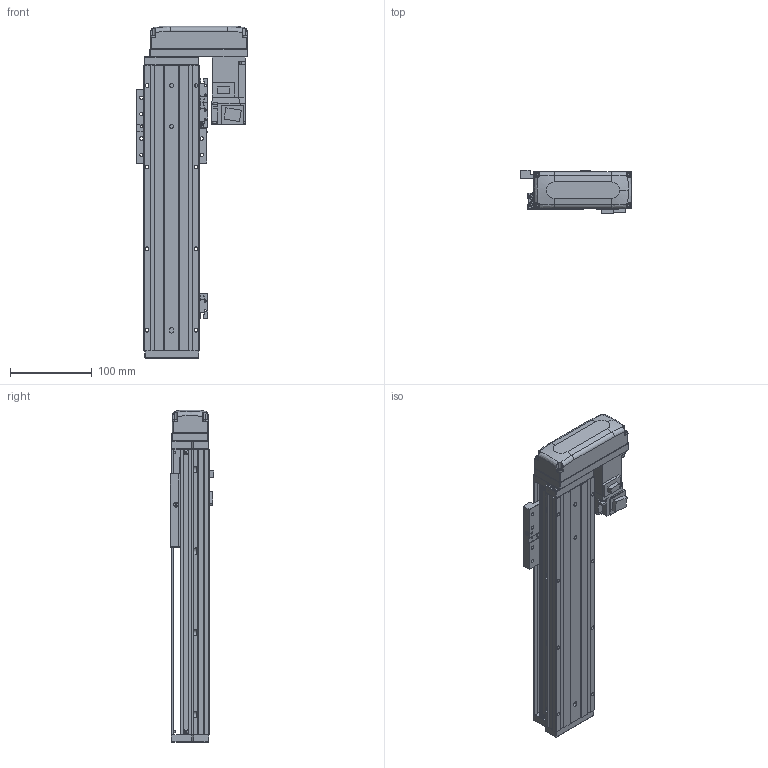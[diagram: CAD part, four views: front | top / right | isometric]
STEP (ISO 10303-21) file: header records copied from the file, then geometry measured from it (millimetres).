
FILE_DESCRIPTION (( 'STEP AP203' ), '1' );
FILE_NAME ('KTHAL60-200-BL-M10-C4L.step', '2022-03-19T08:37:26', ( '微软用户' ), ( '微软中国' ), 'SwSTEP 2.0', 'SolidWorks 2020', '' );
FILE_SCHEMA (( 'CONFIG_CONTROL_DESIGN' ));
Length unit declared in the file: millimetre
Products named in the file (18): GBT 70.1-M3℅6; GB¨uT 70.2-M3¡Á5_M3¡Á6; CTHA60-016; GBT 70.3-M3℅6; EE_SX911P_R; HG-KR13（三菱）; CTHA60-017; CTHA60-015-2_CTHA60-015-2; KTHA60-001_350; CTHA60-021; CTHA60-033; KTHLA60-002; GBT 70.1-M4×16; GBT 70.1-M3×15; KTHA60-004; GBT77-2000M3-3; KTHAL60-200-BL-M10-C4L; KTHA60-005
Assembly tree (51 placements, depth 2):
  KTHAL60-200-BL-M10-C4L
    KTHA60-001_350
    KTHLA60-002
    KTHA60-004
    KTHA60-005
    GB¨uT 70.2-M3¡Á5_M3¡Á6  x5
    GBT 70.3-M3℅6  x4
    EE_SX911P_R  x3
    CTHA60-017  x3
    CTHA60-021  x2
    GBT 70.1-M4×16  x10
    GBT77-2000M3-3  x6
    GBT 70.1-M3℅6  x6
    CTHA60-016
    HG-KR13（三菱）
    CTHA60-015-2_CTHA60-015-2
    CTHA60-033
    GBT 70.1-M3×15  x4
Bounding box: 137 x 53.3 x 407 mm (x, y, z)
Volume: 1043365.7 mm3; surface area: 256526 mm2
Topology: 54 solids, 54 shells, 2235 faces, 5275 edges, 3233 vertices
Faces by surface type: plane 1276, cylinder 541, cone 280, torus 98, bspline 26, sphere 14
Entity records: 38055 total; most frequent: CARTESIAN_POINT 7224, DIRECTION 5913, ORIENTED_EDGE 5694, EDGE_CURVE 2847, AXIS2_PLACEMENT_3D 1989, VECTOR 1935, LINE 1935, VERTEX_POINT 1782
